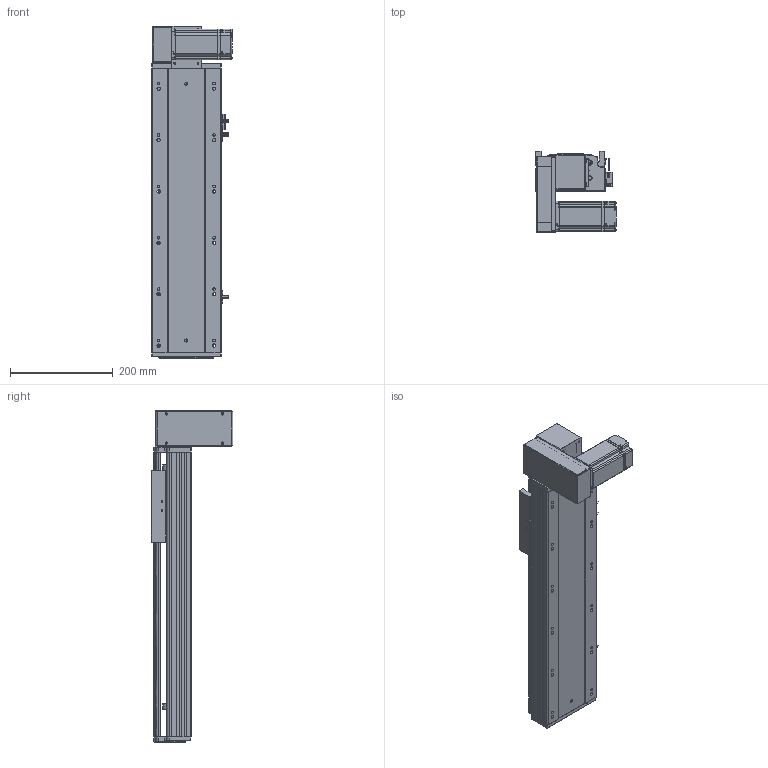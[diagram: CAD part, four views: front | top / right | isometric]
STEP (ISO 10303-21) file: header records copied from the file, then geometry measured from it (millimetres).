
FILE_DESCRIPTION (( 'STEP AP203' ), '1' );
FILE_NAME ('RY140-T-300-DL.SLDASM_300.step', '2021-03-01T06:05:10', ( '盈信电脑' ), ( '东莞市道滘镇水果街19号' ), 'SwSTEP 2.0', 'SolidWorks 2012', '' );
FILE_SCHEMA (( 'CONFIG_CONTROL_DESIGN' ));
Products named in the file (18): 滅袉蝶18-10; RY140-T萇儂欶; RY140-T翋肮謫裔啣; RY140-T-300-DL.SLDASM_300; 侂狟400W侜督萇儂; RY120-T蹟翐M4; RY120-T主同步轮轴承压盖; RY140-T翋肮祭謫盓傅釱; RY120-T肮祭湍揤踡輸1; RY140-T萇儂假蚾啣; 15; RY140綴裔啣; RY120-T肮祭湍揤踡輸2; RY120外置感应片(140共用）; 覜茼ん672; RY140肮祭謫臏賑輸; RY140-T-300-DL倰第奻裔啣; RY140-T-300-DL倰第菁釱
Assembly tree (23 placements, depth 3):
  RY140-T-300-DL.SLDASM_300
    RY140-T-300-DL倰第菁釱
    RY140肮祭謫臏賑輸
    RY140-T-300-DL倰第奻裔啣
    RY140綴裔啣
    覜茼ん672  x3
    RY120外置感应片(140共用）
    RY120-T肮祭湍揤踡輸2
    RY120-T肮祭湍揤踡輸1
    RY140-T翋肮祭謫盓傅釱
    RY140-T萇儂假蚾啣
    侂狟400W侜督萇儂
      15
    RY120-T主同步轮轴承压盖
    RY120-T蹟翐M4  x4
    RY140-T萇儂欶
    滅袉蝶18-10  x2
    RY140-T翋肮謫裔啣
Bounding box: 157 x 158.5 x 646 mm (x, y, z)
Volume: 2319765.5 mm3; surface area: 841409.7 mm2
Topology: 22 solids, 22 shells, 2574 faces, 7042 edges, 4548 vertices
Faces by surface type: plane 1389, cylinder 911, cone 174, bspline 100
Entity records: 81588 total; most frequent: CARTESIAN_POINT 19991, ORIENTED_EDGE 12660, DIRECTION 11976, EDGE_CURVE 6330, VERTEX_POINT 4147, VECTOR 4102, LINE 4102, AXIS2_PLACEMENT_3D 3937
